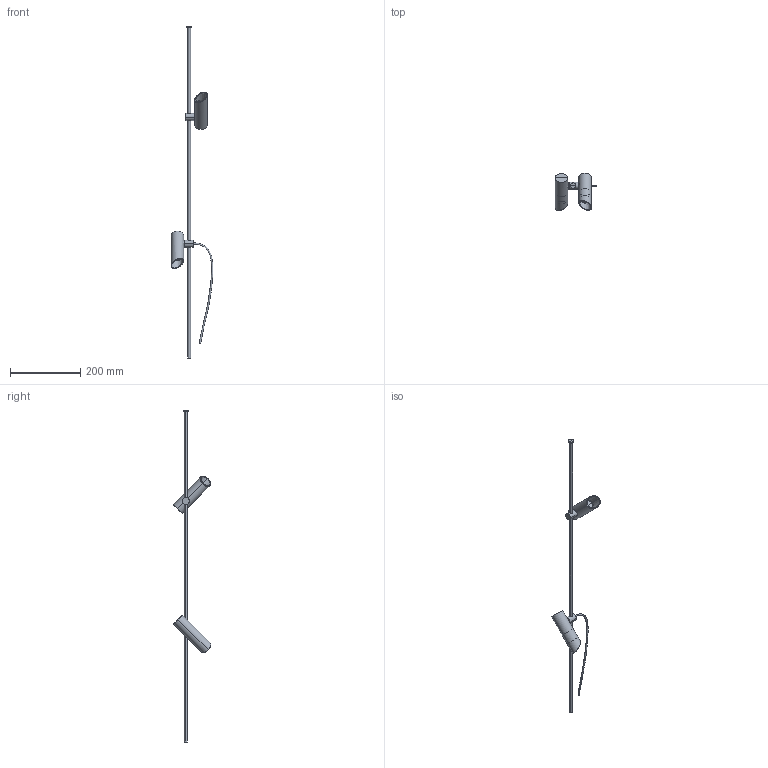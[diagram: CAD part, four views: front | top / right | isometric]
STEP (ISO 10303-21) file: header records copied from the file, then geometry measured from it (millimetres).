
FILE_DESCRIPTION(/* description */ (''),/* implementation_level */ '2;1');
FILE_NAME(/* name */ 'clap_spike_1030.step',/* time_stamp */ '2025-02-26T11:23:57+01:00',/* author */ ('RenataManzini'),/* organization */ (''),/* preprocessor_version */ 'ST-DEVELOPER v20',/* originating_system */ 'AutoCAD Mechanical',/* authorisation */ '');
FILE_SCHEMA (('AUTOMOTIVE_DESIGN { 1 0 10303 214 3 1 1 }'));
Length unit declared in the file: millimetre
Products named in the file (4): Product; CLAP_ pantalla_l - CLAP Accesorio pantalla L negro-491435-_3D_; CLAP_ pantalla_s - CLAP Accesorio pantalla S negro-491443-_3D_; CLAP_ lamp - CLAP Proyector-489792-_3D_
Assembly tree (5 placements, depth 2):
  Product
    CLAP_ pantalla_s - CLAP Accesorio pantalla S negro-491443-_3D_  x2
    CLAP_ lamp - CLAP Proyector-489792-_3D_  x2
    CLAP_ pantalla_l - CLAP Accesorio pantalla L negro-491435-_3D_
Bounding box: 118.55 x 105.77 x 943 mm (x, y, z)
Volume: 235581.9 mm3; surface area: 80539.5 mm2
Topology: 10 solids, 10 shells, 88 faces, 150 edges, 84 vertices
Faces by surface type: plane 46, cylinder 32, cone 8, bspline 2
Entity records: 2517 total; most frequent: CARTESIAN_POINT 1467, DIRECTION 228, ORIENTED_EDGE 172, AXIS2_PLACEMENT_3D 96, EDGE_CURVE 86, EDGE_LOOP 54, FACE_OUTER_BOUND 51, ADVANCED_FACE 51
